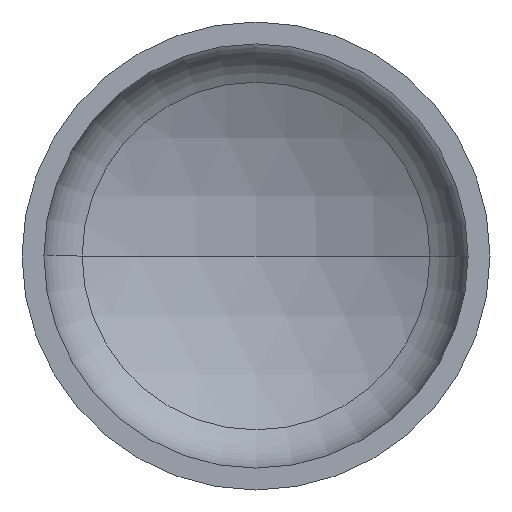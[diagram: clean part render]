
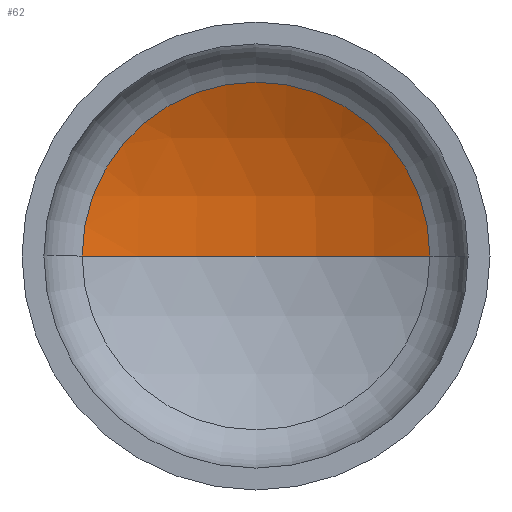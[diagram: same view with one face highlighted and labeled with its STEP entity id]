
A CAD part, front view. The second image highlights one B-rep face of the part: STEP entity #62.
In plain terms, the highlighted spherical face has radius 1440 mm.
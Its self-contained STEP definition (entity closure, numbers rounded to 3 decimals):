
#5 = ORIENTED_EDGE ( 'NONE', *, *, #164, .T. ) ;
#15 = EDGE_LOOP ( 'NONE', ( #132, #5, #113 ) ) ;
#19 = DIRECTION ( 'NONE',  ( -1., 0., 0. ) ) ;
#53 = CIRCLE ( 'NONE', #60, 668.704 ) ;
#55 = AXIS2_PLACEMENT_3D ( 'NONE', #332, #186, #84 ) ;
#57 = AXIS2_PLACEMENT_3D ( 'NONE', #282, #372, #19 ) ;
#60 = AXIS2_PLACEMENT_3D ( 'NONE', #194, #214, #378 ) ;
#62 = ADVANCED_FACE ( 'NONE', ( #151 ), #95, .F. ) ;
#84 = DIRECTION ( 'NONE',  ( 1., 0., 0. ) ) ;
#95 = SPHERICAL_SURFACE ( 'NONE', #125, 1440. ) ;
#113 = ORIENTED_EDGE ( 'NONE', *, *, #161, .T. ) ;
#122 = VERTEX_POINT ( 'NONE', #233 ) ;
#125 = AXIS2_PLACEMENT_3D ( 'NONE', #286, #281, #289 ) ;
#127 = VERTEX_POINT ( 'NONE', #327 ) ;
#131 = VERTEX_POINT ( 'NONE', #240 ) ;
#132 = ORIENTED_EDGE ( 'NONE', *, *, #165, .F. ) ;
#151 = FACE_OUTER_BOUND ( 'NONE', #15, .T. ) ;
#161 = EDGE_CURVE ( 'NONE', #131, #122, #53, .T. ) ;
#164 = EDGE_CURVE ( 'NONE', #127, #131, #312, .T. ) ;
#165 = EDGE_CURVE ( 'NONE', #127, #122, #253, .T. ) ;
#186 = DIRECTION ( 'NONE',  ( 0., 0., 1. ) ) ;
#194 = CARTESIAN_POINT ( 'NONE',  ( 0., 343.55, 0. ) ) ;
#214 = DIRECTION ( 'NONE',  ( 0., -1., 0. ) ) ;
#233 = CARTESIAN_POINT ( 'NONE',  ( -668.704, 343.55, 0. ) ) ;
#240 = CARTESIAN_POINT ( 'NONE',  ( 668.704, 343.55, 0. ) ) ;
#253 = CIRCLE ( 'NONE', #55, 1440. ) ;
#281 = DIRECTION ( 'NONE',  ( 0., 0., -1. ) ) ;
#282 = CARTESIAN_POINT ( 'NONE',  ( 0., -931.767, 0. ) ) ;
#286 = CARTESIAN_POINT ( 'NONE',  ( 0., -931.767, 0. ) ) ;
#289 = DIRECTION ( 'NONE',  ( -1., 0., 0. ) ) ;
#312 = CIRCLE ( 'NONE', #57, 1440. ) ;
#327 = CARTESIAN_POINT ( 'NONE',  ( 0., 508.233, 0. ) ) ;
#332 = CARTESIAN_POINT ( 'NONE',  ( 0., -931.767, 0. ) ) ;
#372 = DIRECTION ( 'NONE',  ( 0., 0., -1. ) ) ;
#378 = DIRECTION ( 'NONE',  ( 1., 0., 0. ) ) ;
